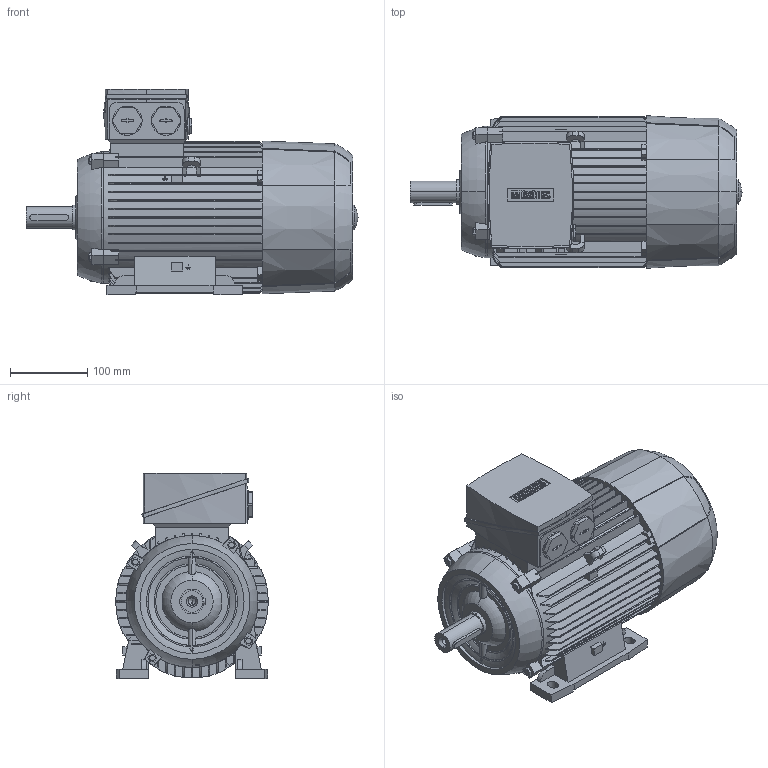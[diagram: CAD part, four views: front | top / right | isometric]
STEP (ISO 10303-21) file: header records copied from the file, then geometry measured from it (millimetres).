
FILE_DESCRIPTION(('STEP AP214'),'1');
FILE_NAME('cctmp_580E34D3-0527-4DBC-A5E8-31FB5E7ADBE9_2026_05_08_09_06_37_0199_49444..stp','2026-05-08T07:06:37',('KiM GmbH'),('CADClick - www.CADClick.com'),'Spatial InterOp 3D',' ','unknown authorization');
FILE_SCHEMA(('AUTOMOTIVE_DESIGN'));
Length unit declared in the file: millimetre
Products named in the file (1): 2026_05_08_09_06_37_0197
Bounding box: 430.5 x 198 x 266 mm (x, y, z)
Volume: 10415687.8 mm3; surface area: 563389.5 mm2
Topology: 1 solids, 1 shells, 1072 faces, 3031 edges, 2007 vertices
Faces by surface type: plane 699, cylinder 221, torus 124, cone 28
Entity records: 48267 total; most frequent: CARTESIAN_POINT 11994, ORIENTED_EDGE 6054, DIRECTION 5480, EDGE_CURVE 3027, VERTEX_POINT 2007, LINE 1924, VECTOR 1924, AXIS2_PLACEMENT_3D 1778
